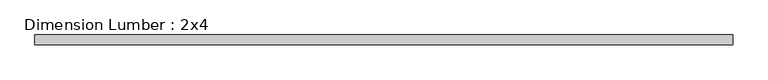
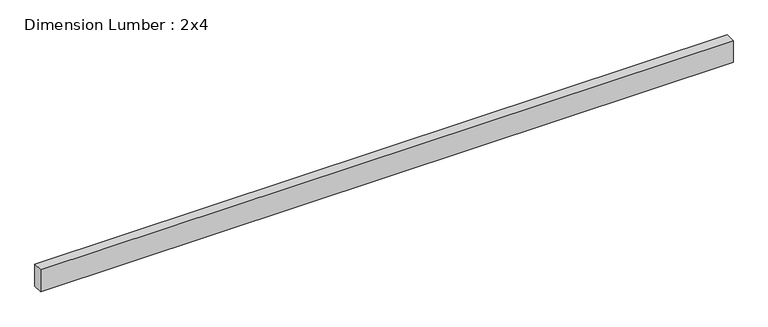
"""IFC4 building model written with IfcOpenShell, lengths in millimetres: beam geometry, Dimension Lumber : 2x4."""

from ifc_helpers import new_model, si_unit, frame, origin, place, context, project, spatial, polyline, outline, extrude, source, transform, mapped, element, save


def dimension_lumber_2x4_907f3222(model_context):
    return source(origin(), model_context, "Body", "SweptSolid", [
        extrude(outline(polyline([(1333.5, 19.05), (1333.5, -19.05), (-1333.4999994, -19.05), (-1333.4999994, 19.05), (1333.5, 19.05)])), frame((0.0, 0.0, -44.45), z_axis=(0.0, 0.0, 1.0), x_axis=(1.0, 0.0, 0.0)), (0.0, 0.0, 1.0), 88.9),
    ])


if __name__ == "__main__":
    model = new_model("IFC4")
    model_context = context("Model", 3, world=origin())
    ifc_project = project(units=[si_unit("LENGTHUNIT", "METRE", prefix="MILLI")], contexts=[model_context])
    site = spatial("IfcSite", under=ifc_project)
    building = spatial("IfcBuilding", under=site)
    placement = place(None, origin())
    dimension_lumber_2x4_shape = dimension_lumber_2x4_907f3222(model_context)
    element("IfcBeam", 1, ObjectType="Dimension Lumber : 2x4", at=placement, inside=building, context=model_context, shape_type="MappedRepresentation", body=[
        mapped(dimension_lumber_2x4_shape, transform((0.0, 0.0, 0.0), x_axis=(1.0, 0.0, 0.0), y_axis=(0.0, 1.0, 0.0), z_axis=(0.0, 0.0, 1.0))),
    ])
    save(model, "model.ifc")
